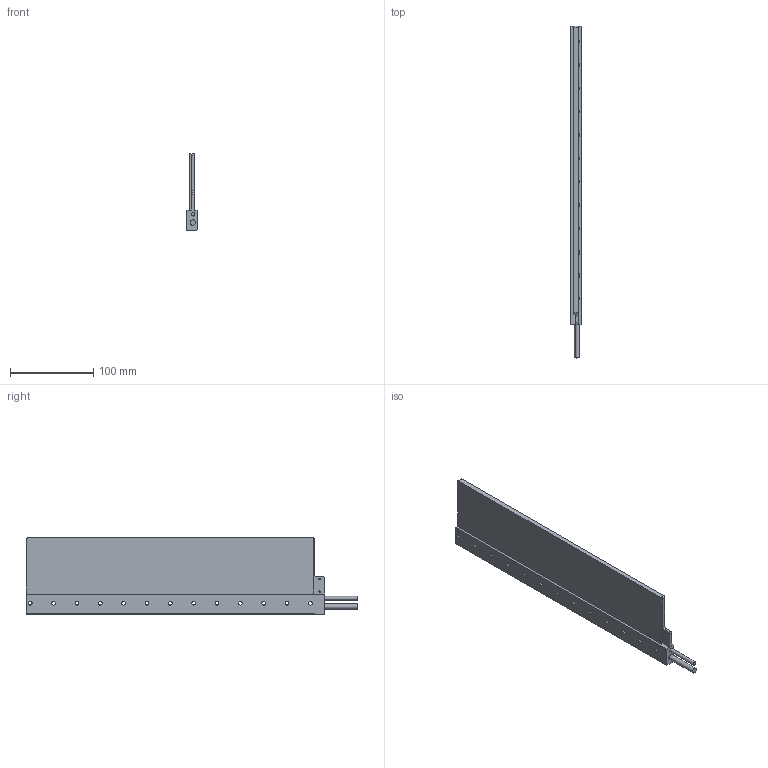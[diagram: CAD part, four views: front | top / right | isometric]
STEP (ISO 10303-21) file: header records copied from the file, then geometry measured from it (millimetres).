
FILE_DESCRIPTION( ( '-' ), '1' );
FILE_NAME( 'C:/Users/peikelboom/Desktop/STEP Files/Ironless/UL/Coilunit UL 12_160607.stp', '20-04-2016', ( 'P.Eikelboom' ), ( 'Technotion' ), 'PSStep 16.0.42', '-', ' ' );
FILE_SCHEMA( ( 'AUTOMOTIVE_DESIGN { 1 0 10303 214 1 1 1 1 }' ) );
Length unit declared in the file: millimetre
Products named in the file (1): 4022 363 35003-oa0
Bounding box: 12 x 398 x 91.3 mm (x, y, z)
Surface area: 80186.1 mm2 (no closed solid volume)
Topology: 0 solids, 152 shells, 152 faces, 826 edges, 799 vertices
Faces by surface type: cylinder 79, plane 69, cone 4
Full cylindrical faces by diameter (mm): 1.6 x2, 3 x2, 3.2 x2, 4.3 x1, 4.5 x13, 5.7 x2, 6.4 x1
Entity records: 9192 total; most frequent: CARTESIAN_POINT 1941, DIRECTION 1306, ORIENTED_EDGE 774, EDGE_CURVE 774, VERTEX_POINT 774, LINE 452, VECTOR 452, AXIS2_PLACEMENT_3D 427
